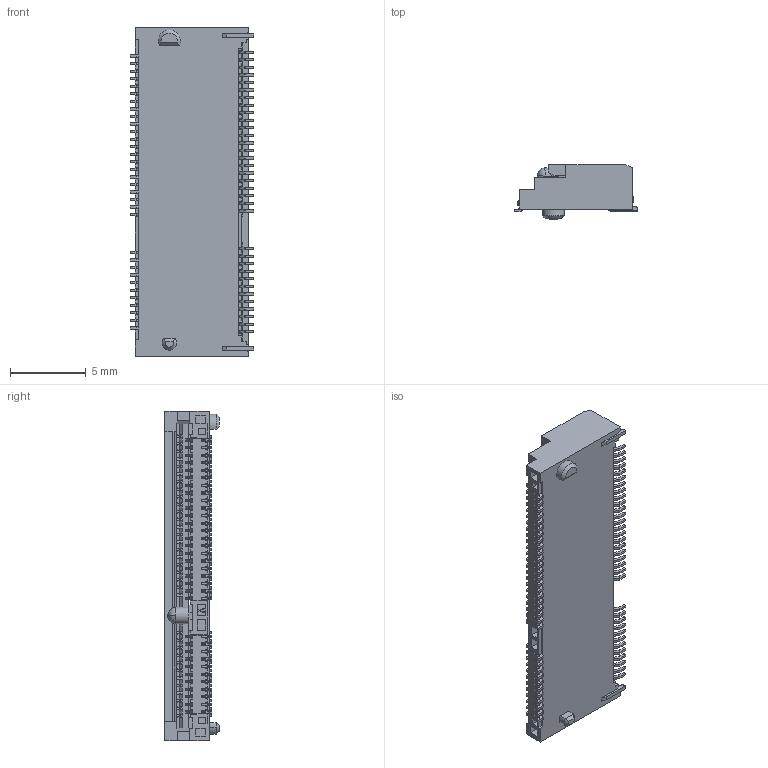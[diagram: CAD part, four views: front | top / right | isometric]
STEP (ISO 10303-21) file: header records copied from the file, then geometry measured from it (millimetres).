
FILE_DESCRIPTION((''),'2;1');
FILE_NAME('GEN_4_3_2H_KEY_E000','2024-12-02T12:40:40',('Administrator'),(''),'CREO PARAMETRIC BY PTC INC, 2022284','CREO PARAMETRIC BY PTC INC, 2022284','');
FILE_SCHEMA(('CONFIG_CONTROL_DESIGN'));
Products named in the file (1): GEN_4_3_2H_KEY_E000
Bounding box: 8.2 x 3.6 x 21.8 mm (x, y, z)
Volume: 315.8 mm3; surface area: 1112.9 mm2
Topology: 1 solids, 21 shells, 4365 faces, 12964 edges, 8464 vertices
Faces by surface type: plane 3446, cylinder 915, bspline 2, cone 2
Entity records: 145118 total; most frequent: CARTESIAN_POINT 26137, ORIENTED_EDGE 25924, DIRECTION 23585, EDGE_CURVE 12962, VECTOR 11039, LINE 11039, VERTEX_POINT 8464, AXIS2_PLACEMENT_3D 6273
